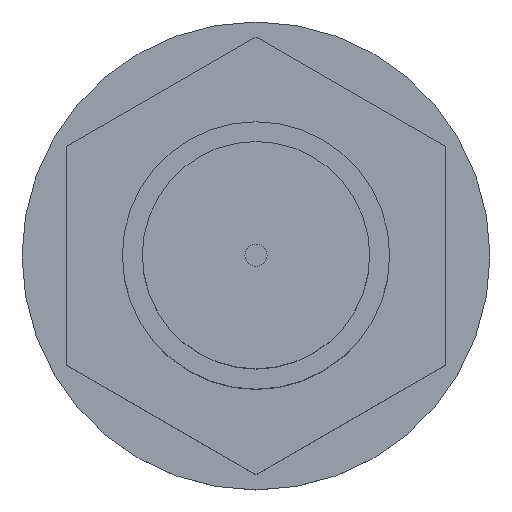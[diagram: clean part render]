
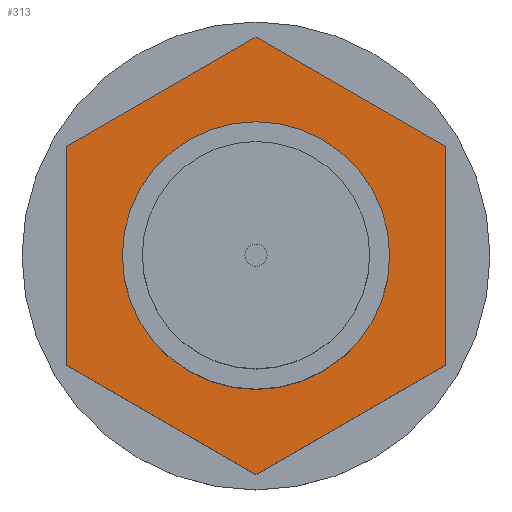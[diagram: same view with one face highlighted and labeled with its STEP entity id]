
A CAD part, top view. The second image highlights one B-rep face of the part: STEP entity #313.
In plain terms, the highlighted planar face has unit normal (0, 0, 1) as drawn and (-1, 0, 0) by its records, which use the part's own axes.
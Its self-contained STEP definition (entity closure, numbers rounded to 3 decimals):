
#244 = EDGE_CURVE ( 'NONE', #318, #245, #848, .T. ) ;
#245 = VERTEX_POINT ( 'NONE', #841 ) ;
#246 = ORIENTED_EDGE ( 'NONE', *, *, #301, .T. ) ;
#287 = VERTEX_POINT ( 'NONE', #918 ) ;
#288 = VERTEX_POINT ( 'NONE', #917 ) ;
#292 = EDGE_CURVE ( 'NONE', #287, #288, #911, .T. ) ;
#293 = ORIENTED_EDGE ( 'NONE', *, *, #292, .F. ) ;
#294 = ORIENTED_EDGE ( 'NONE', *, *, #295, .F. ) ;
#295 = EDGE_CURVE ( 'NONE', #288, #287, #970, .T. ) ;
#301 = EDGE_CURVE ( 'NONE', #245, #302, #953, .T. ) ;
#302 = VERTEX_POINT ( 'NONE', #949 ) ;
#303 = ORIENTED_EDGE ( 'NONE', *, *, #304, .T. ) ;
#304 = EDGE_CURVE ( 'NONE', #302, #305, #948, .T. ) ;
#305 = VERTEX_POINT ( 'NONE', #944 ) ;
#306 = ORIENTED_EDGE ( 'NONE', *, *, #307, .T. ) ;
#307 = EDGE_CURVE ( 'NONE', #305, #357, #1008, .T. ) ;
#313 = ADVANCED_FACE ( 'NONE', ( #994, #993 ), #992, .F. ) ;
#314 = EDGE_LOOP ( 'NONE', ( #315, #319, #246, #303, #306, #358 ) ) ;
#315 = ORIENTED_EDGE ( 'NONE', *, *, #316, .T. ) ;
#316 = EDGE_CURVE ( 'NONE', #317, #318, #987, .T. ) ;
#317 = VERTEX_POINT ( 'NONE', #983 ) ;
#318 = VERTEX_POINT ( 'NONE', #982 ) ;
#319 = ORIENTED_EDGE ( 'NONE', *, *, #244, .T. ) ;
#357 = VERTEX_POINT ( 'NONE', #1043 ) ;
#358 = ORIENTED_EDGE ( 'NONE', *, *, #359, .T. ) ;
#359 = EDGE_CURVE ( 'NONE', #357, #317, #1107, .T. ) ;
#360 = EDGE_LOOP ( 'NONE', ( #293, #294 ) ) ;
#841 = CARTESIAN_POINT ( 'NONE',  ( 16.25, -4.907, -8.5 ) ) ;
#842 = DIRECTION ( 'NONE',  ( 0., -1., 0. ) ) ;
#843 = VECTOR ( 'NONE', #842, 1000. ) ;
#844 = CARTESIAN_POINT ( 'NONE',  ( 16.25, 4.907, -8.5 ) ) ;
#848 = LINE ( 'NONE', #844, #843 ) ;
#911 = CIRCLE ( 'NONE', #974, 6. ) ;
#917 = CARTESIAN_POINT ( 'NONE',  ( 16.25, -3., 5.196 ) ) ;
#918 = CARTESIAN_POINT ( 'NONE',  ( 16.25, 3., -5.196 ) ) ;
#944 = CARTESIAN_POINT ( 'NONE',  ( 16.25, -4.907, 8.5 ) ) ;
#945 = DIRECTION ( 'NONE',  ( 0., 0.5, 0.866 ) ) ;
#946 = VECTOR ( 'NONE', #945, 1000. ) ;
#947 = CARTESIAN_POINT ( 'NONE',  ( 16.25, -9.815, 0. ) ) ;
#948 = LINE ( 'NONE', #947, #946 ) ;
#949 = CARTESIAN_POINT ( 'NONE',  ( 16.25, -9.815, 0. ) ) ;
#950 = DIRECTION ( 'NONE',  ( 0., -0.5, 0.866 ) ) ;
#951 = VECTOR ( 'NONE', #950, 1000. ) ;
#952 = CARTESIAN_POINT ( 'NONE',  ( 16.25, -4.907, -8.5 ) ) ;
#953 = LINE ( 'NONE', #952, #951 ) ;
#966 = DIRECTION ( 'NONE',  ( 0., -0.5, 0.866 ) ) ;
#967 = DIRECTION ( 'NONE',  ( -1., 0., 0. ) ) ;
#968 = CARTESIAN_POINT ( 'NONE',  ( 16.25, 0., 0. ) ) ;
#969 = AXIS2_PLACEMENT_3D ( 'NONE', #968, #967, #966 ) ;
#970 = CIRCLE ( 'NONE', #969, 6. ) ;
#971 = DIRECTION ( 'NONE',  ( 0., -0.5, 0.866 ) ) ;
#972 = DIRECTION ( 'NONE',  ( -1., 0., 0. ) ) ;
#973 = CARTESIAN_POINT ( 'NONE',  ( 16.25, 0., 0. ) ) ;
#974 = AXIS2_PLACEMENT_3D ( 'NONE', #973, #972, #971 ) ;
#982 = CARTESIAN_POINT ( 'NONE',  ( 16.25, 4.907, -8.5 ) ) ;
#983 = CARTESIAN_POINT ( 'NONE',  ( 16.25, 9.815, 0. ) ) ;
#984 = DIRECTION ( 'NONE',  ( 0., -0.5, -0.866 ) ) ;
#985 = VECTOR ( 'NONE', #984, 1000. ) ;
#986 = CARTESIAN_POINT ( 'NONE',  ( 16.25, 9.815, 0. ) ) ;
#987 = LINE ( 'NONE', #986, #985 ) ;
#988 = DIRECTION ( 'NONE',  ( 0., 0.5, -0.866 ) ) ;
#989 = DIRECTION ( 'NONE',  ( 1., 0., 0. ) ) ;
#990 = CARTESIAN_POINT ( 'NONE',  ( 16.25, 14.722, 8.5 ) ) ;
#991 = AXIS2_PLACEMENT_3D ( 'NONE', #990, #989, #988 ) ;
#992 = PLANE ( 'NONE',  #991 ) ;
#993 = FACE_BOUND ( 'NONE', #360, .T. ) ;
#994 = FACE_OUTER_BOUND ( 'NONE', #314, .T. ) ;
#1005 = DIRECTION ( 'NONE',  ( 0., 1., 0. ) ) ;
#1006 = VECTOR ( 'NONE', #1005, 1000. ) ;
#1007 = CARTESIAN_POINT ( 'NONE',  ( 16.25, -4.907, 8.5 ) ) ;
#1008 = LINE ( 'NONE', #1007, #1006 ) ;
#1043 = CARTESIAN_POINT ( 'NONE',  ( 16.25, 4.907, 8.5 ) ) ;
#1104 = DIRECTION ( 'NONE',  ( 0., 0.5, -0.866 ) ) ;
#1105 = VECTOR ( 'NONE', #1104, 1000. ) ;
#1106 = CARTESIAN_POINT ( 'NONE',  ( 16.25, 4.907, 8.5 ) ) ;
#1107 = LINE ( 'NONE', #1106, #1105 ) ;
